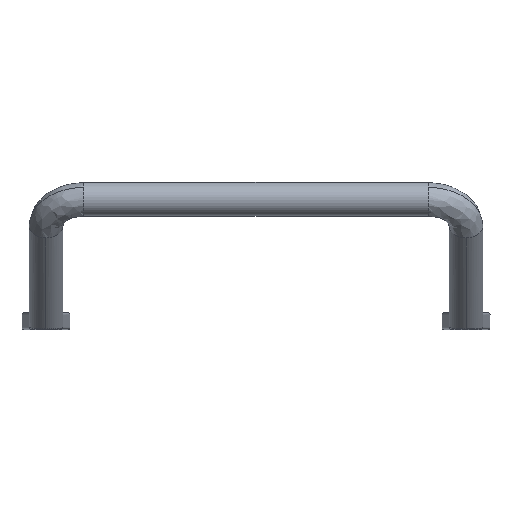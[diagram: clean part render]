
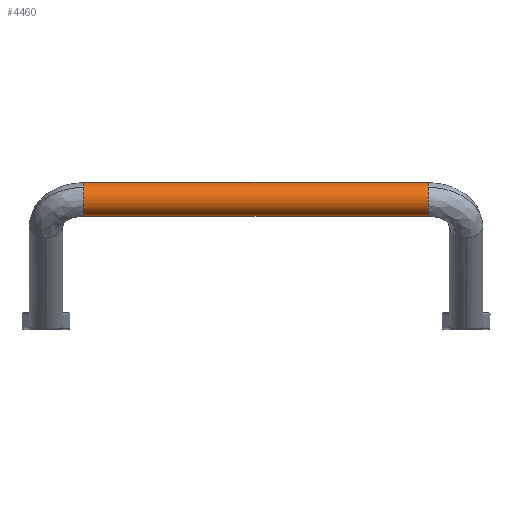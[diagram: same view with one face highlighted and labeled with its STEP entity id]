
A CAD part, left-side view. The second image highlights one B-rep face of the part: STEP entity #4460.
In plain terms, the highlighted cylindrical face has radius 4 mm (diameter 8 mm), a partial arc.
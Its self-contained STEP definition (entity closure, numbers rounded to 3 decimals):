
#9 = EDGE_CURVE ( 'NONE', #4003, #3553, #4210, .T. ) ;
#83 = CYLINDRICAL_SURFACE ( 'NONE', #1460, 4. ) ;
#140 = DIRECTION ( 'NONE',  ( 0., -1., 0. ) ) ;
#344 = CARTESIAN_POINT ( 'NONE',  ( -46., 95., 27. ) ) ;
#353 = LINE ( 'NONE', #3925, #2337 ) ;
#509 = CARTESIAN_POINT ( 'NONE',  ( -46., 12.717, 31. ) ) ;
#561 = CARTESIAN_POINT ( 'NONE',  ( -46., 95., 31. ) ) ;
#634 = AXIS2_PLACEMENT_3D ( 'NONE', #2837, #3195, #1805 ) ;
#637 = LINE ( 'NONE', #975, #1475 ) ;
#809 = EDGE_CURVE ( 'NONE', #1927, #4064, #637, .T. ) ;
#843 = DIRECTION ( 'NONE',  ( 0., 0., 1. ) ) ;
#964 = ORIENTED_EDGE ( 'NONE', *, *, #3090, .T. ) ;
#975 = CARTESIAN_POINT ( 'NONE',  ( -46., 12.717, 35. ) ) ;
#1084 = ORIENTED_EDGE ( 'NONE', *, *, #3319, .T. ) ;
#1161 = DIRECTION ( 'NONE',  ( 0., 0., 1. ) ) ;
#1223 = DIRECTION ( 'NONE',  ( 0., -1., 0. ) ) ;
#1278 = CARTESIAN_POINT ( 'NONE',  ( -48.828, 13., 33.828 ) ) ;
#1284 = CIRCLE ( 'NONE', #634, 4. ) ;
#1290 = EDGE_CURVE ( 'NONE', #1981, #1913, #2391, .T. ) ;
#1460 = AXIS2_PLACEMENT_3D ( 'NONE', #509, #4418, #843 ) ;
#1475 = VECTOR ( 'NONE', #3780, 1000. ) ;
#1521 = DIRECTION ( 'NONE',  ( 0., 1., 0. ) ) ;
#1557 = DIRECTION ( 'NONE',  ( 0., 0., 1. ) ) ;
#1805 = DIRECTION ( 'NONE',  ( 0., 0., 1. ) ) ;
#1830 = DIRECTION ( 'NONE',  ( 0., 1., 0. ) ) ;
#1913 = VERTEX_POINT ( 'NONE', #344 ) ;
#1927 = VERTEX_POINT ( 'NONE', #2105 ) ;
#1981 = VERTEX_POINT ( 'NONE', #3655 ) ;
#2105 = CARTESIAN_POINT ( 'NONE',  ( -46., 13., 35. ) ) ;
#2230 = DIRECTION ( 'NONE',  ( 0., 0., 1. ) ) ;
#2256 = CARTESIAN_POINT ( 'NONE',  ( -46., 13., 31. ) ) ;
#2337 = VECTOR ( 'NONE', #1830, 1000. ) ;
#2391 = CIRCLE ( 'NONE', #2867, 4. ) ;
#2534 = EDGE_CURVE ( 'NONE', #4003, #1913, #353, .T. ) ;
#2563 = ORIENTED_EDGE ( 'NONE', *, *, #1290, .T. ) ;
#2825 = ORIENTED_EDGE ( 'NONE', *, *, #809, .T. ) ;
#2837 = CARTESIAN_POINT ( 'NONE',  ( -46., 13., 31. ) ) ;
#2867 = AXIS2_PLACEMENT_3D ( 'NONE', #561, #1223, #1557 ) ;
#2922 = AXIS2_PLACEMENT_3D ( 'NONE', #4347, #140, #2230 ) ;
#3060 = CARTESIAN_POINT ( 'NONE',  ( -46., 95., 35. ) ) ;
#3090 = EDGE_CURVE ( 'NONE', #4064, #1981, #3594, .T. ) ;
#3123 = EDGE_LOOP ( 'NONE', ( #3190, #3739, #1084, #2825, #964, #2563 ) ) ;
#3190 = ORIENTED_EDGE ( 'NONE', *, *, #2534, .F. ) ;
#3195 = DIRECTION ( 'NONE',  ( 0., 1., 0. ) ) ;
#3319 = EDGE_CURVE ( 'NONE', #3553, #1927, #1284, .T. ) ;
#3488 = FACE_OUTER_BOUND ( 'NONE', #3123, .T. ) ;
#3553 = VERTEX_POINT ( 'NONE', #1278 ) ;
#3594 = CIRCLE ( 'NONE', #2922, 4. ) ;
#3655 = CARTESIAN_POINT ( 'NONE',  ( -48.828, 95., 33.828 ) ) ;
#3739 = ORIENTED_EDGE ( 'NONE', *, *, #9, .T. ) ;
#3780 = DIRECTION ( 'NONE',  ( 0., 1., 0. ) ) ;
#3925 = CARTESIAN_POINT ( 'NONE',  ( -46., 12.717, 27. ) ) ;
#3954 = AXIS2_PLACEMENT_3D ( 'NONE', #2256, #1521, #1161 ) ;
#4003 = VERTEX_POINT ( 'NONE', #4426 ) ;
#4064 = VERTEX_POINT ( 'NONE', #3060 ) ;
#4210 = CIRCLE ( 'NONE', #3954, 4. ) ;
#4347 = CARTESIAN_POINT ( 'NONE',  ( -46., 95., 31. ) ) ;
#4418 = DIRECTION ( 'NONE',  ( 0., 1., 0. ) ) ;
#4426 = CARTESIAN_POINT ( 'NONE',  ( -46., 13., 27. ) ) ;
#4460 = ADVANCED_FACE ( 'NONE', ( #3488 ), #83, .T. ) ;
